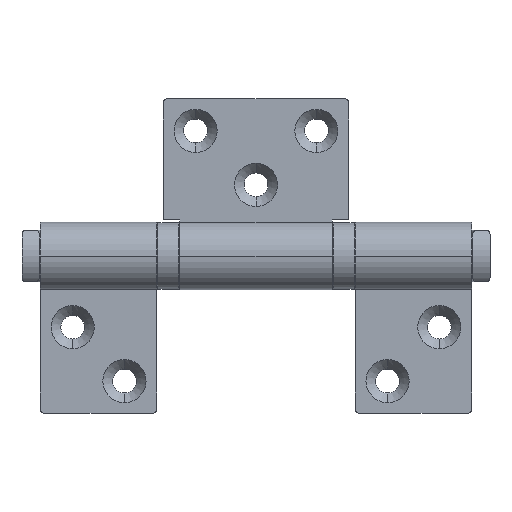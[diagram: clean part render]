
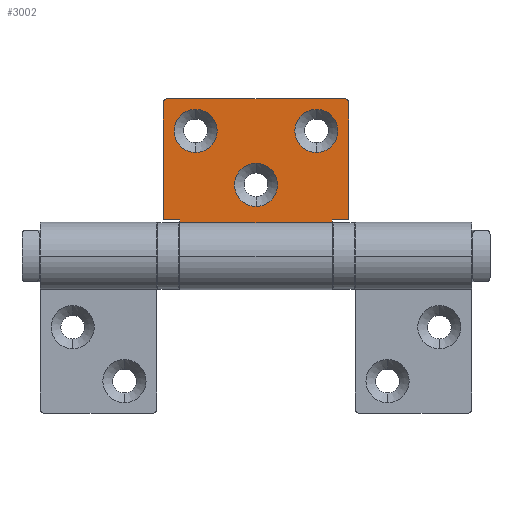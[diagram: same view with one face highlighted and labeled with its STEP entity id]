
A CAD part, left-side view. The second image highlights one B-rep face of the part: STEP entity #3002.
In plain terms, the highlighted planar face has unit normal (-1, 0, 0) as drawn and (1, 0, 0) by its records, which use the part's own axes.
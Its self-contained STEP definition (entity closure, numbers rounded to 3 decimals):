
#38 = CIRCLE ( 'NONE', #2245, 1. ) ;
#95 = CARTESIAN_POINT ( 'NONE',  ( 1.5, 35.5, 43. ) ) ;
#104 = DIRECTION ( 'NONE',  ( 0., -1., 0. ) ) ;
#124 = LINE ( 'NONE', #142, #348 ) ;
#136 = EDGE_LOOP ( 'NONE', ( #2294, #3636, #1379, #2260, #2845, #1072, #867, #2440, #1027, #2817 ) ) ;
#140 = VERTEX_POINT ( 'NONE', #95 ) ;
#142 = CARTESIAN_POINT ( 'NONE',  ( 1.5, 7.705, 43. ) ) ;
#208 = DIRECTION ( 'NONE',  ( 0., -1., 0. ) ) ;
#209 = DIRECTION ( 'NONE',  ( 0., 1., 0. ) ) ;
#232 = DIRECTION ( 'NONE',  ( -1., 0., 0. ) ) ;
#276 = VERTEX_POINT ( 'NONE', #518 ) ;
#284 = VECTOR ( 'NONE', #3738, 1000. ) ;
#339 = CARTESIAN_POINT ( 'NONE',  ( 1.5, 35.5, 1. ) ) ;
#343 = FACE_BOUND ( 'NONE', #3140, .T. ) ;
#348 = VECTOR ( 'NONE', #1342, 1000. ) ;
#398 = CARTESIAN_POINT ( 'NONE',  ( 1.5, 7.705, 3.8 ) ) ;
#416 = ORIENTED_EDGE ( 'NONE', *, *, #3565, .T. ) ;
#420 = AXIS2_PLACEMENT_3D ( 'NONE', #3863, #232, #592 ) ;
#427 = VECTOR ( 'NONE', #209, 1000. ) ;
#428 = CARTESIAN_POINT ( 'NONE',  ( 1.5, 36.5, 1. ) ) ;
#431 = AXIS2_PLACEMENT_3D ( 'NONE', #1364, #1819, #939 ) ;
#494 = VERTEX_POINT ( 'NONE', #3665 ) ;
#518 = CARTESIAN_POINT ( 'NONE',  ( 1.5, 8.4, 43. ) ) ;
#592 = DIRECTION ( 'NONE',  ( 0., -1., 0. ) ) ;
#620 = ORIENTED_EDGE ( 'NONE', *, *, #2227, .T. ) ;
#673 = CARTESIAN_POINT ( 'NONE',  ( 1.5, 29., 35.5 ) ) ;
#690 = CIRCLE ( 'NONE', #2906, 1. ) ;
#696 = LINE ( 'NONE', #708, #1880 ) ;
#708 = CARTESIAN_POINT ( 'NONE',  ( 1.5, 8.4, 43. ) ) ;
#738 = VERTEX_POINT ( 'NONE', #1530 ) ;
#767 = CARTESIAN_POINT ( 'NONE',  ( 1.5, 35.5, 0. ) ) ;
#786 = CARTESIAN_POINT ( 'NONE',  ( 1.5, 8.4, 43. ) ) ;
#804 = VERTEX_POINT ( 'NONE', #1960 ) ;
#813 = CIRCLE ( 'NONE', #3152, 5. ) ;
#845 = EDGE_CURVE ( 'NONE', #276, #2338, #696, .T. ) ;
#866 = AXIS2_PLACEMENT_3D ( 'NONE', #2751, #2794, #104 ) ;
#867 = ORIENTED_EDGE ( 'NONE', *, *, #3217, .F. ) ;
#885 = CARTESIAN_POINT ( 'NONE',  ( 1.5, 7.705, 0. ) ) ;
#919 = CARTESIAN_POINT ( 'NONE',  ( 1.5, 8.4, 39.2 ) ) ;
#939 = DIRECTION ( 'NONE',  ( 0., -1., 0. ) ) ;
#982 = CARTESIAN_POINT ( 'NONE',  ( 1.5, 24., 35.5 ) ) ;
#992 = EDGE_CURVE ( 'NONE', #1729, #1417, #813, .T. ) ;
#1016 = CIRCLE ( 'NONE', #431, 5. ) ;
#1027 = ORIENTED_EDGE ( 'NONE', *, *, #1876, .T. ) ;
#1046 = EDGE_CURVE ( 'NONE', #804, #2420, #1140, .T. ) ;
#1072 = ORIENTED_EDGE ( 'NONE', *, *, #3627, .T. ) ;
#1117 = DIRECTION ( 'NONE',  ( -1., 0., 0. ) ) ;
#1136 = VECTOR ( 'NONE', #3699, 1000. ) ;
#1140 = LINE ( 'NONE', #2680, #3092 ) ;
#1145 = CIRCLE ( 'NONE', #2465, 5. ) ;
#1176 = DIRECTION ( 'NONE',  ( 0., -1., 0. ) ) ;
#1212 = VERTEX_POINT ( 'NONE', #982 ) ;
#1224 = EDGE_LOOP ( 'NONE', ( #2494, #1311 ) ) ;
#1229 = EDGE_CURVE ( 'NONE', #738, #494, #2284, .T. ) ;
#1311 = ORIENTED_EDGE ( 'NONE', *, *, #2444, .T. ) ;
#1328 = DIRECTION ( 'NONE',  ( 1., 0., 0. ) ) ;
#1342 = DIRECTION ( 'NONE',  ( 0., 0., -1. ) ) ;
#1364 = CARTESIAN_POINT ( 'NONE',  ( 1.5, 29., 35.5 ) ) ;
#1373 = CIRCLE ( 'NONE', #420, 5. ) ;
#1379 = ORIENTED_EDGE ( 'NONE', *, *, #1779, .T. ) ;
#1417 = VERTEX_POINT ( 'NONE', #2756 ) ;
#1530 = CARTESIAN_POINT ( 'NONE',  ( 1.5, 8.4, 3.8 ) ) ;
#1536 = PLANE ( 'NONE',  #866 ) ;
#1637 = DIRECTION ( 'NONE',  ( -1., 0., 0. ) ) ;
#1663 = DIRECTION ( 'NONE',  ( 0., 1., 0. ) ) ;
#1698 = CARTESIAN_POINT ( 'NONE',  ( 1.5, 7.705, 3.8 ) ) ;
#1716 = CARTESIAN_POINT ( 'NONE',  ( 1.5, 7.705, 39.2 ) ) ;
#1729 = VERTEX_POINT ( 'NONE', #2037 ) ;
#1772 = CARTESIAN_POINT ( 'NONE',  ( 1.5, 16.5, 21.5 ) ) ;
#1779 = EDGE_CURVE ( 'NONE', #494, #2131, #2931, .T. ) ;
#1789 = CARTESIAN_POINT ( 'NONE',  ( 1.5, 7.705, 39.2 ) ) ;
#1815 = CIRCLE ( 'NONE', #3519, 5. ) ;
#1819 = DIRECTION ( 'NONE',  ( -1., 0., 0. ) ) ;
#1852 = FACE_BOUND ( 'NONE', #3765, .T. ) ;
#1869 = CARTESIAN_POINT ( 'NONE',  ( 1.5, 21.5, 21.5 ) ) ;
#1876 = EDGE_CURVE ( 'NONE', #2338, #2615, #2947, .T. ) ;
#1880 = VECTOR ( 'NONE', #1978, 1000. ) ;
#1886 = DIRECTION ( 'NONE',  ( -1., 0., 0. ) ) ;
#1960 = CARTESIAN_POINT ( 'NONE',  ( 1.5, 36.5, 42. ) ) ;
#1978 = DIRECTION ( 'NONE',  ( 0., 0., -1. ) ) ;
#2037 = CARTESIAN_POINT ( 'NONE',  ( 1.5, 24., 7.5 ) ) ;
#2085 = CARTESIAN_POINT ( 'NONE',  ( 1.5, 29., 7.5 ) ) ;
#2092 = DIRECTION ( 'NONE',  ( 0., -1., 0. ) ) ;
#2131 = VERTEX_POINT ( 'NONE', #767 ) ;
#2133 = FACE_OUTER_BOUND ( 'NONE', #136, .T. ) ;
#2180 = VECTOR ( 'NONE', #1663, 1000. ) ;
#2220 = VERTEX_POINT ( 'NONE', #1698 ) ;
#2227 = EDGE_CURVE ( 'NONE', #2540, #1212, #1016, .T. ) ;
#2245 = AXIS2_PLACEMENT_3D ( 'NONE', #2834, #1328, #208 ) ;
#2260 = ORIENTED_EDGE ( 'NONE', *, *, #2530, .T. ) ;
#2284 = LINE ( 'NONE', #786, #1136 ) ;
#2294 = ORIENTED_EDGE ( 'NONE', *, *, #2663, .T. ) ;
#2328 = DIRECTION ( 'NONE',  ( -1., 0., 0. ) ) ;
#2338 = VERTEX_POINT ( 'NONE', #919 ) ;
#2420 = VERTEX_POINT ( 'NONE', #428 ) ;
#2428 = CIRCLE ( 'NONE', #3698, 5. ) ;
#2440 = ORIENTED_EDGE ( 'NONE', *, *, #845, .T. ) ;
#2444 = EDGE_CURVE ( 'NONE', #2543, #2564, #1145, .T. ) ;
#2465 = AXIS2_PLACEMENT_3D ( 'NONE', #1772, #1637, #2595 ) ;
#2494 = ORIENTED_EDGE ( 'NONE', *, *, #2824, .T. ) ;
#2530 = EDGE_CURVE ( 'NONE', #2131, #2420, #690, .T. ) ;
#2540 = VERTEX_POINT ( 'NONE', #3909 ) ;
#2543 = VERTEX_POINT ( 'NONE', #3299 ) ;
#2564 = VERTEX_POINT ( 'NONE', #1869 ) ;
#2595 = DIRECTION ( 'NONE',  ( 0., -1., 0. ) ) ;
#2615 = VERTEX_POINT ( 'NONE', #1789 ) ;
#2663 = EDGE_CURVE ( 'NONE', #2220, #738, #3420, .T. ) ;
#2671 = ORIENTED_EDGE ( 'NONE', *, *, #992, .T. ) ;
#2680 = CARTESIAN_POINT ( 'NONE',  ( 1.5, 36.5, 43. ) ) ;
#2737 = EDGE_CURVE ( 'NONE', #2615, #2220, #124, .T. ) ;
#2751 = CARTESIAN_POINT ( 'NONE',  ( 1.5, 7.705, 43. ) ) ;
#2756 = CARTESIAN_POINT ( 'NONE',  ( 1.5, 34., 7.5 ) ) ;
#2774 = FACE_BOUND ( 'NONE', #1224, .T. ) ;
#2794 = DIRECTION ( 'NONE',  ( -1., 0., 0. ) ) ;
#2817 = ORIENTED_EDGE ( 'NONE', *, *, #2737, .T. ) ;
#2824 = EDGE_CURVE ( 'NONE', #2564, #2543, #2428, .T. ) ;
#2834 = CARTESIAN_POINT ( 'NONE',  ( 1.5, 35.5, 42. ) ) ;
#2845 = ORIENTED_EDGE ( 'NONE', *, *, #1046, .F. ) ;
#2892 = DIRECTION ( 'NONE',  ( 0., 0., -1. ) ) ;
#2906 = AXIS2_PLACEMENT_3D ( 'NONE', #339, #3633, #2092 ) ;
#2931 = LINE ( 'NONE', #885, #427 ) ;
#2946 = CARTESIAN_POINT ( 'NONE',  ( 1.5, 16.5, 21.5 ) ) ;
#2947 = LINE ( 'NONE', #1716, #3098 ) ;
#3002 = ADVANCED_FACE ( 'NONE', ( #1852, #343, #2774, #2133 ), #1536, .F. ) ;
#3033 = DIRECTION ( 'NONE',  ( 0., -1., 0. ) ) ;
#3049 = ORIENTED_EDGE ( 'NONE', *, *, #3673, .T. ) ;
#3070 = CARTESIAN_POINT ( 'NONE',  ( 1.5, 7.705, 43. ) ) ;
#3092 = VECTOR ( 'NONE', #2892, 1000. ) ;
#3098 = VECTOR ( 'NONE', #3262, 1000. ) ;
#3104 = DIRECTION ( 'NONE',  ( 0., -1., 0. ) ) ;
#3140 = EDGE_LOOP ( 'NONE', ( #3049, #2671 ) ) ;
#3152 = AXIS2_PLACEMENT_3D ( 'NONE', #2085, #1117, #1176 ) ;
#3217 = EDGE_CURVE ( 'NONE', #276, #140, #3903, .T. ) ;
#3262 = DIRECTION ( 'NONE',  ( 0., -1., 0. ) ) ;
#3299 = CARTESIAN_POINT ( 'NONE',  ( 1.5, 11.5, 21.5 ) ) ;
#3420 = LINE ( 'NONE', #398, #2180 ) ;
#3519 = AXIS2_PLACEMENT_3D ( 'NONE', #673, #1886, #3104 ) ;
#3565 = EDGE_CURVE ( 'NONE', #1212, #2540, #1815, .T. ) ;
#3627 = EDGE_CURVE ( 'NONE', #804, #140, #38, .T. ) ;
#3633 = DIRECTION ( 'NONE',  ( 1., 0., 0. ) ) ;
#3636 = ORIENTED_EDGE ( 'NONE', *, *, #1229, .T. ) ;
#3665 = CARTESIAN_POINT ( 'NONE',  ( 1.5, 8.4, 0. ) ) ;
#3673 = EDGE_CURVE ( 'NONE', #1417, #1729, #1373, .T. ) ;
#3698 = AXIS2_PLACEMENT_3D ( 'NONE', #2946, #2328, #3033 ) ;
#3699 = DIRECTION ( 'NONE',  ( 0., 0., -1. ) ) ;
#3738 = DIRECTION ( 'NONE',  ( 0., 1., 0. ) ) ;
#3765 = EDGE_LOOP ( 'NONE', ( #620, #416 ) ) ;
#3863 = CARTESIAN_POINT ( 'NONE',  ( 1.5, 29., 7.5 ) ) ;
#3903 = LINE ( 'NONE', #3070, #284 ) ;
#3909 = CARTESIAN_POINT ( 'NONE',  ( 1.5, 34., 35.5 ) ) ;
